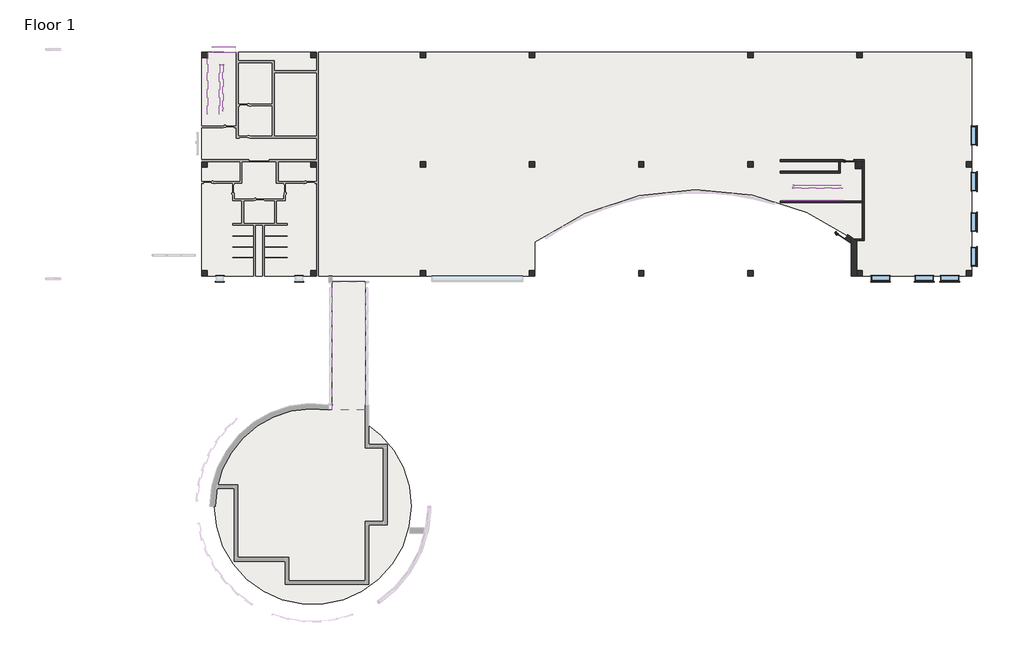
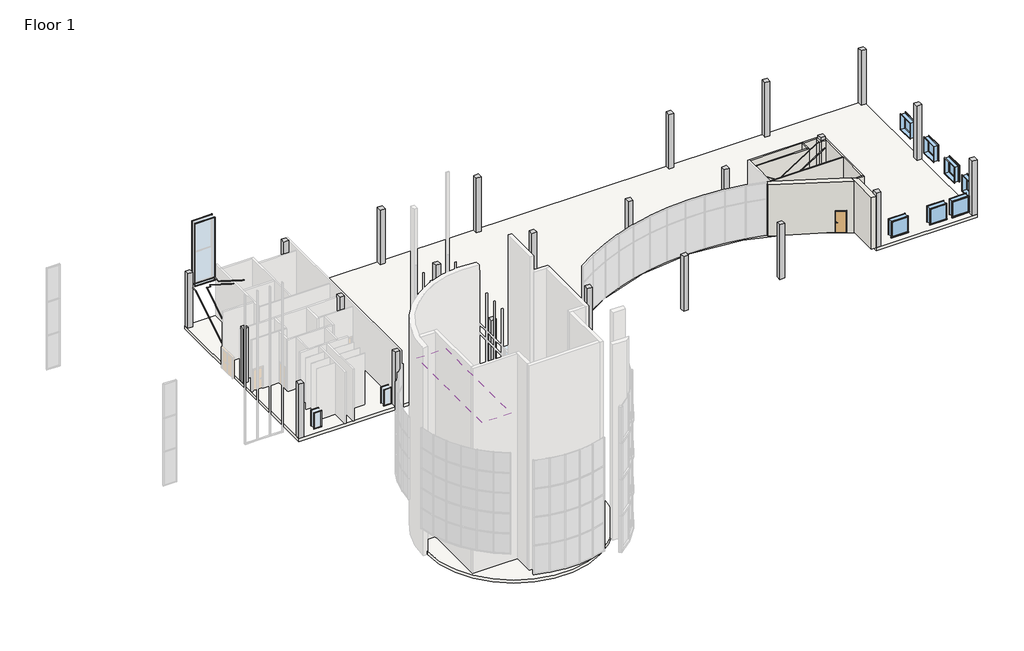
# One storey, part 11 of 11: 23 columns, 20 proxies, 10 walls, 7 windows, 4 railings, 2 doors, 2 slabs, 1 covering.
"""IFC4 building model written with IfcOpenShell, lengths in millimetres."""

from ifc_helpers import new_model, si_unit, point, frame, frame_2d, origin, origin_with_axes, place, context, project, spatial, polyline, circle_curve, trimmed, segment, composite_curve, outline, extrude, faceted_brep, transform, mapped, element, save
from ifc_brep_helpers import plane_surface, cylinder_surface, revolved_surface, advanced_brep
from components import trim_window_exterior_flat_with_sill_05ca63db, trim_window_exterior_flat_with_sill_953729a5, trim_window_exterior_flat_with_sill_4912eb0d, trim_window_interior_flat_picture_frame_a1a3bc7c, trim_window_interior_flat_picture_frame_4e25f6c2, trim_window_interior_flat_picture_frame_978fd00d, column_b6e10527, door_36f17018, door_fea31935, stair_railing_1_a10cea20, stair_railing_1_f20ecf36, stair_railing_1_b1bba10e, stair_railing_1_19f522ab, window_45f0c9e0

model = new_model("IFC4")

# Units and contexts
model_context = context("Model", 3, world=origin())
ifc_project = project(units=[si_unit("LENGTHUNIT", "METRE", prefix="MILLI")], contexts=[model_context])

# Site, building, storey
site = spatial("IfcSite", under=ifc_project)
building = spatial("IfcBuilding", under=site)
storey = spatial("IfcBuildingStorey", under=building, Name="Floor 1", Elevation=0.0)

# Proxies
placement = place(None, origin())
trim_window_exterior_flat_with_sill_shape = trim_window_exterior_flat_with_sill_05ca63db(model_context)
element("IfcBuildingElementProxy", 1, Name="Trim-Window-Exterior-Flat : with Sill", ObjectType="Trim-Window-Exterior-Flat : with Sill", at=placement, inside=storey, context=model_context, shape_type="MappedRepresentation", body=[
    mapped(trim_window_exterior_flat_with_sill_shape, transform((61956.9817024, 40245.511889, 2438.4), x_axis=(0.0, 1.0, 0.0), y_axis=(0.0, 0.0, 1.0), z_axis=(1.0, 0.0, 0.0))),
])
element("IfcBuildingElementProxy", 2, Name="Trim-Window-Exterior-Flat : with Sill", ObjectType="Trim-Window-Exterior-Flat : with Sill", at=placement, inside=storey, context=model_context, shape_type="MappedRepresentation", body=[
    mapped(trim_window_exterior_flat_with_sill_shape, transform((61956.9817024, 43141.111889, 2438.4), x_axis=(0.0, 1.0, 0.0), y_axis=(0.0, 0.0, 1.0), z_axis=(1.0, 0.0, 0.0))),
])
element("IfcBuildingElementProxy", 3, Name="Trim-Window-Exterior-Flat : with Sill", ObjectType="Trim-Window-Exterior-Flat : with Sill", at=placement, inside=storey, context=model_context, shape_type="MappedRepresentation", body=[
    mapped(trim_window_exterior_flat_with_sill_shape, transform((61956.9817024, 46544.711889, 2438.4), x_axis=(0.0, 1.0, 0.0), y_axis=(0.0, 0.0, 1.0), z_axis=(1.0, 0.0, 0.0))),
])
element("IfcBuildingElementProxy", 4, Name="Trim-Window-Exterior-Flat : with Sill", ObjectType="Trim-Window-Exterior-Flat : with Sill", at=placement, inside=storey, context=model_context, shape_type="MappedRepresentation", body=[
    mapped(trim_window_exterior_flat_with_sill_shape, transform((61956.9817024, 50405.511889, 2438.4), x_axis=(0.0, 1.0, 0.0), y_axis=(0.0, 0.0, 1.0), z_axis=(1.0, 0.0, 0.0))),
])
element("IfcBuildingElementProxy", 5, Name="Trim-Window-Exterior-Flat : with Sill", ObjectType="Trim-Window-Exterior-Flat : with Sill", at=placement, inside=storey, context=model_context, shape_type="MappedRepresentation", body=[
    mapped(trim_window_exterior_flat_with_sill_shape, transform((59672.5692024, 38164.299389, 2438.4), x_axis=(1.0, 0.0, 0.0), y_axis=(0.0, 0.0, 1.0), z_axis=(0.0, -1.0, 0.0))),
])
element("IfcBuildingElementProxy", 6, Name="Trim-Window-Exterior-Flat : with Sill", ObjectType="Trim-Window-Exterior-Flat : with Sill", at=placement, inside=storey, context=model_context, shape_type="MappedRepresentation", body=[
    mapped(trim_window_exterior_flat_with_sill_shape, transform((57538.9692024, 38164.299389, 2438.4), x_axis=(1.0, 0.0, 0.0), y_axis=(0.0, 0.0, 1.0), z_axis=(0.0, -1.0, 0.0))),
])
element("IfcBuildingElementProxy", 7, Name="Trim-Window-Exterior-Flat : with Sill", ObjectType="Trim-Window-Exterior-Flat : with Sill", at=placement, inside=storey, context=model_context, shape_type="MappedRepresentation", body=[
    mapped(trim_window_exterior_flat_with_sill_shape, transform((53881.3692024, 38164.299389, 2438.4), x_axis=(1.0, 0.0, 0.0), y_axis=(0.0, 0.0, 1.0), z_axis=(0.0, -1.0, 0.0))),
])
trim_window_exterior_flat_with_sill_2_shape = trim_window_exterior_flat_with_sill_953729a5(model_context)
element("IfcBuildingElementProxy", 8, Name="Trim-Window-Exterior-Flat : with Sill", ObjectType="Trim-Window-Exterior-Flat : with Sill", at=placement, inside=storey, context=model_context, shape_type="MappedRepresentation", body=[
    mapped(trim_window_exterior_flat_with_sill_2_shape, transform((-1084.2307976, 57820.724389, 9906.0), x_axis=(-1.0, 0.0, 0.0), y_axis=(0.0, 0.0, 1.0), z_axis=(0.0, 1.0, 0.0))),
])
trim_window_exterior_flat_with_sill_3_shape = trim_window_exterior_flat_with_sill_4912eb0d(model_context)
element("IfcBuildingElementProxy", 9, Name="Trim-Window-Exterior-Flat : with Sill", ObjectType="Trim-Window-Exterior-Flat : with Sill", at=placement, inside=storey, context=model_context, shape_type="MappedRepresentation", body=[
    mapped(trim_window_exterior_flat_with_sill_3_shape, transform((-1446.1807976, 38164.299389, 2438.4), x_axis=(1.0, 0.0, 0.0), y_axis=(0.0, 0.0, 1.0), z_axis=(0.0, -1.0, 0.0))),
])
element("IfcBuildingElementProxy", 10, Name="Trim-Window-Exterior-Flat : with Sill", ObjectType="Trim-Window-Exterior-Flat : with Sill", at=placement, inside=storey, context=model_context, shape_type="MappedRepresentation", body=[
    mapped(trim_window_exterior_flat_with_sill_3_shape, transform((5189.5692024, 38164.299389, 2438.4), x_axis=(1.0, 0.0, 0.0), y_axis=(0.0, 0.0, 1.0), z_axis=(0.0, -1.0, 0.0))),
])
trim_window_interior_flat_picture_frame_shape = trim_window_interior_flat_picture_frame_a1a3bc7c(model_context)
element("IfcBuildingElementProxy", 11, Name="Trim-Window-Interior-Flat : Picture Frame", ObjectType="Trim-Window-Interior-Flat : Picture Frame", at=placement, inside=storey, context=model_context, shape_type="MappedRepresentation", body=[
    mapped(trim_window_interior_flat_picture_frame_shape, transform((61502.9567024, 40245.511889, 2438.4), x_axis=(0.0, -1.0, 0.0), y_axis=(0.0, 0.0, 1.0), z_axis=(-1.0, 0.0, 0.0))),
])
element("IfcBuildingElementProxy", 12, Name="Trim-Window-Interior-Flat : Picture Frame", ObjectType="Trim-Window-Interior-Flat : Picture Frame", at=placement, inside=storey, context=model_context, shape_type="MappedRepresentation", body=[
    mapped(trim_window_interior_flat_picture_frame_shape, transform((61502.9567024, 43141.111889, 2438.4), x_axis=(0.0, -1.0, 0.0), y_axis=(0.0, 0.0, 1.0), z_axis=(-1.0, 0.0, 0.0))),
])
element("IfcBuildingElementProxy", 13, Name="Trim-Window-Interior-Flat : Picture Frame", ObjectType="Trim-Window-Interior-Flat : Picture Frame", at=placement, inside=storey, context=model_context, shape_type="MappedRepresentation", body=[
    mapped(trim_window_interior_flat_picture_frame_shape, transform((61502.9567024, 46544.711889, 2438.4), x_axis=(0.0, -1.0, 0.0), y_axis=(0.0, 0.0, 1.0), z_axis=(-1.0, 0.0, 0.0))),
])
element("IfcBuildingElementProxy", 14, Name="Trim-Window-Interior-Flat : Picture Frame", ObjectType="Trim-Window-Interior-Flat : Picture Frame", at=placement, inside=storey, context=model_context, shape_type="MappedRepresentation", body=[
    mapped(trim_window_interior_flat_picture_frame_shape, transform((61502.9567024, 50405.511889, 2438.4), x_axis=(0.0, -1.0, 0.0), y_axis=(0.0, 0.0, 1.0), z_axis=(-1.0, 0.0, 0.0))),
])
element("IfcBuildingElementProxy", 15, Name="Trim-Window-Interior-Flat : Picture Frame", ObjectType="Trim-Window-Interior-Flat : Picture Frame", at=placement, inside=storey, context=model_context, shape_type="MappedRepresentation", body=[
    mapped(trim_window_interior_flat_picture_frame_shape, transform((59672.5692024, 38618.324389, 2438.4), x_axis=(-1.0, 0.0, 0.0), y_axis=(0.0, 0.0, 1.0), z_axis=(0.0, 1.0, 0.0))),
])
element("IfcBuildingElementProxy", 16, Name="Trim-Window-Interior-Flat : Picture Frame", ObjectType="Trim-Window-Interior-Flat : Picture Frame", at=placement, inside=storey, context=model_context, shape_type="MappedRepresentation", body=[
    mapped(trim_window_interior_flat_picture_frame_shape, transform((57538.9692024, 38618.324389, 2438.4), x_axis=(-1.0, 0.0, 0.0), y_axis=(0.0, 0.0, 1.0), z_axis=(0.0, 1.0, 0.0))),
])
element("IfcBuildingElementProxy", 17, Name="Trim-Window-Interior-Flat : Picture Frame", ObjectType="Trim-Window-Interior-Flat : Picture Frame", at=placement, inside=storey, context=model_context, shape_type="MappedRepresentation", body=[
    mapped(trim_window_interior_flat_picture_frame_shape, transform((53881.3692024, 38618.324389, 2438.4), x_axis=(-1.0, 0.0, 0.0), y_axis=(0.0, 0.0, 1.0), z_axis=(0.0, 1.0, 0.0))),
])
trim_window_interior_flat_picture_frame_2_shape = trim_window_interior_flat_picture_frame_4e25f6c2(model_context)
element("IfcBuildingElementProxy", 18, Name="Trim-Window-Interior-Flat : Picture Frame", ObjectType="Trim-Window-Interior-Flat : Picture Frame", at=placement, inside=storey, context=model_context, shape_type="MappedRepresentation", body=[
    mapped(trim_window_interior_flat_picture_frame_2_shape, transform((-1084.2307976, 57366.699389, 9906.0), x_axis=(1.0, 0.0, 0.0), y_axis=(0.0, 0.0, 1.0), z_axis=(0.0, -1.0, 0.0))),
])
trim_window_interior_flat_picture_frame_3_shape = trim_window_interior_flat_picture_frame_978fd00d(model_context)
element("IfcBuildingElementProxy", 19, Name="Trim-Window-Interior-Flat : Picture Frame", ObjectType="Trim-Window-Interior-Flat : Picture Frame", at=placement, inside=storey, context=model_context, shape_type="MappedRepresentation", body=[
    mapped(trim_window_interior_flat_picture_frame_3_shape, transform((-1446.1807976, 38618.324389, 2438.4), x_axis=(-1.0, 0.0, 0.0), y_axis=(0.0, 0.0, 1.0), z_axis=(0.0, 1.0, 0.0))),
])
element("IfcBuildingElementProxy", 20, Name="Trim-Window-Interior-Flat : Picture Frame", ObjectType="Trim-Window-Interior-Flat : Picture Frame", at=placement, inside=storey, context=model_context, shape_type="MappedRepresentation", body=[
    mapped(trim_window_interior_flat_picture_frame_3_shape, transform((5189.5692024, 38618.324389, 2438.4), x_axis=(-1.0, 0.0, 0.0), y_axis=(0.0, 0.0, 1.0), z_axis=(0.0, 1.0, 0.0))),
])

# Columns
element("IfcColumn", 21, ObjectType="Rectangular Column1 : 18\" x 18\"", at=placement, inside=storey, context=model_context, shape_type="SweptSolid", body=[
    extrude(outline(polyline([(6637.3692024, 39077.111889), (6637.3692024, 38619.911889), (6180.1692024, 38619.911889), (6180.1692024, 39077.111889), (6637.3692024, 39077.111889)])), origin_with_axes(), (0.0, 0.0, 1.0), 5486.4),
])
element("IfcColumn", 22, ObjectType="Rectangular Column1 : 18\" x 18\"", at=placement, inside=storey, context=model_context, shape_type="SweptSolid", body=[
    extrude(outline(polyline([(-2506.6307976, 48221.111889), (-2506.6307976, 47763.911889), (-2963.8307976, 47763.911889), (-2963.8307976, 48221.111889), (-2506.6307976, 48221.111889)])), origin_with_axes(), (0.0, 0.0, 1.0), 5486.4),
])
element("IfcColumn", 23, ObjectType="Rectangular Column1 : 18\" x 18\"", at=placement, inside=storey, context=model_context, shape_type="SweptSolid", body=[
    extrude(outline(polyline([(6637.3692024, 48221.111889), (6637.3692024, 47763.911889), (6180.1692024, 47763.911889), (6180.1692024, 48221.111889), (6637.3692024, 48221.111889)])), origin_with_axes(), (0.0, 0.0, 1.0), 5486.4),
])
element("IfcColumn", 24, ObjectType="Rectangular Column1 : 18\" x 18\"", at=placement, inside=storey, context=model_context, shape_type="SweptSolid", body=[
    extrude(outline(polyline([(52357.3692024, 48221.111889), (52357.3692024, 47763.911889), (51900.1692024, 47763.911889), (51900.1692024, 48221.111889), (52357.3692024, 48221.111889)])), origin_with_axes(), (0.0, 0.0, 1.0), 5486.4),
])
element("IfcColumn", 25, ObjectType="Rectangular Column1 : 18\" x 18\"", at=placement, inside=storey, context=model_context, shape_type="SweptSolid", body=[
    extrude(outline(polyline([(6637.3692024, 57365.111889), (6637.3692024, 56907.911889), (6180.1692024, 56907.911889), (6180.1692024, 57365.111889), (6637.3692024, 57365.111889)])), origin_with_axes(), (0.0, 0.0, 1.0), 5486.4),
])
column_shape = column_b6e10527(model_context)
element("IfcColumn", 26, ObjectType="Rectangular Column1 : 18\" x 18\"", at=placement, inside=storey, context=model_context, shape_type="MappedRepresentation", body=[
    mapped(column_shape, transform((-2735.2307976, 38848.511889, 0.0), x_axis=(1.0, 0.0, 0.0), y_axis=(0.0, 1.0, 0.0), z_axis=(0.0, 0.0, 1.0))),
])
element("IfcColumn", 27, ObjectType="Rectangular Column1 : 18\" x 18\"", at=placement, inside=storey, context=model_context, shape_type="MappedRepresentation", body=[
    mapped(column_shape, transform((15552.7692024, 38848.511889, 0.0), x_axis=(1.0, 0.0, 0.0), y_axis=(0.0, 1.0, 0.0), z_axis=(0.0, 0.0, 1.0))),
])
element("IfcColumn", 28, ObjectType="Rectangular Column1 : 18\" x 18\"", at=placement, inside=storey, context=model_context, shape_type="MappedRepresentation", body=[
    mapped(column_shape, transform((24696.7692024, 38848.511889, 0.0), x_axis=(1.0, 0.0, 0.0), y_axis=(0.0, 1.0, 0.0), z_axis=(0.0, 0.0, 1.0))),
])
element("IfcColumn", 29, ObjectType="Rectangular Column1 : 18\" x 18\"", at=placement, inside=storey, context=model_context, shape_type="MappedRepresentation", body=[
    mapped(column_shape, transform((33840.7692024, 38848.511889, 0.0), x_axis=(1.0, 0.0, 0.0), y_axis=(0.0, 1.0, 0.0), z_axis=(0.0, 0.0, 1.0))),
])
element("IfcColumn", 30, ObjectType="Rectangular Column1 : 18\" x 18\"", at=placement, inside=storey, context=model_context, shape_type="MappedRepresentation", body=[
    mapped(column_shape, transform((42984.7692024, 38848.511889, 0.0), x_axis=(1.0, 0.0, 0.0), y_axis=(0.0, 1.0, 0.0), z_axis=(0.0, 0.0, 1.0))),
])
element("IfcColumn", 31, ObjectType="Rectangular Column1 : 18\" x 18\"", at=placement, inside=storey, context=model_context, shape_type="MappedRepresentation", body=[
    mapped(column_shape, transform((52128.7692024, 38848.511889, 0.0), x_axis=(1.0, 0.0, 0.0), y_axis=(0.0, 1.0, 0.0), z_axis=(0.0, 0.0, 1.0))),
])
element("IfcColumn", 32, ObjectType="Rectangular Column1 : 18\" x 18\"", at=placement, inside=storey, context=model_context, shape_type="MappedRepresentation", body=[
    mapped(column_shape, transform((61272.7692024, 38848.511889, 0.0), x_axis=(1.0, 0.0, 0.0), y_axis=(0.0, 1.0, 0.0), z_axis=(0.0, 0.0, 1.0))),
])
element("IfcColumn", 33, ObjectType="Rectangular Column1 : 18\" x 18\"", at=placement, inside=storey, context=model_context, shape_type="MappedRepresentation", body=[
    mapped(column_shape, transform((15552.7692024, 47992.511889, 0.0), x_axis=(1.0, 0.0, 0.0), y_axis=(0.0, 1.0, 0.0), z_axis=(0.0, 0.0, 1.0))),
])
element("IfcColumn", 34, ObjectType="Rectangular Column1 : 18\" x 18\"", at=placement, inside=storey, context=model_context, shape_type="MappedRepresentation", body=[
    mapped(column_shape, transform((24696.7692024, 47992.511889, 0.0), x_axis=(1.0, 0.0, 0.0), y_axis=(0.0, 1.0, 0.0), z_axis=(0.0, 0.0, 1.0))),
])
element("IfcColumn", 35, ObjectType="Rectangular Column1 : 18\" x 18\"", at=placement, inside=storey, context=model_context, shape_type="MappedRepresentation", body=[
    mapped(column_shape, transform((33840.7692024, 47992.511889, 0.0), x_axis=(1.0, 0.0, 0.0), y_axis=(0.0, 1.0, 0.0), z_axis=(0.0, 0.0, 1.0))),
])
element("IfcColumn", 36, ObjectType="Rectangular Column1 : 18\" x 18\"", at=placement, inside=storey, context=model_context, shape_type="MappedRepresentation", body=[
    mapped(column_shape, transform((42984.7692024, 47992.511889, 0.0), x_axis=(1.0, 0.0, 0.0), y_axis=(0.0, 1.0, 0.0), z_axis=(0.0, 0.0, 1.0))),
])
element("IfcColumn", 37, ObjectType="Rectangular Column1 : 18\" x 18\"", at=placement, inside=storey, context=model_context, shape_type="MappedRepresentation", body=[
    mapped(column_shape, transform((61272.7692024, 47992.511889, 0.0), x_axis=(1.0, 0.0, 0.0), y_axis=(0.0, 1.0, 0.0), z_axis=(0.0, 0.0, 1.0))),
])
element("IfcColumn", 38, ObjectType="Rectangular Column1 : 18\" x 18\"", at=placement, inside=storey, context=model_context, shape_type="MappedRepresentation", body=[
    mapped(column_shape, transform((-2735.2307976, 57136.511889, 0.0), x_axis=(1.0, 0.0, 0.0), y_axis=(0.0, 1.0, 0.0), z_axis=(0.0, 0.0, 1.0))),
])
element("IfcColumn", 39, ObjectType="Rectangular Column1 : 18\" x 18\"", at=placement, inside=storey, context=model_context, shape_type="MappedRepresentation", body=[
    mapped(column_shape, transform((15552.7692024, 57136.511889, 0.0), x_axis=(1.0, 0.0, 0.0), y_axis=(0.0, 1.0, 0.0), z_axis=(0.0, 0.0, 1.0))),
])
element("IfcColumn", 40, ObjectType="Rectangular Column1 : 18\" x 18\"", at=placement, inside=storey, context=model_context, shape_type="MappedRepresentation", body=[
    mapped(column_shape, transform((24696.7692024, 57136.511889, 0.0), x_axis=(1.0, 0.0, 0.0), y_axis=(0.0, 1.0, 0.0), z_axis=(0.0, 0.0, 1.0))),
])
element("IfcColumn", 41, ObjectType="Rectangular Column1 : 18\" x 18\"", at=placement, inside=storey, context=model_context, shape_type="MappedRepresentation", body=[
    mapped(column_shape, transform((42984.7692024, 57136.511889, 0.0), x_axis=(1.0, 0.0, 0.0), y_axis=(0.0, 1.0, 0.0), z_axis=(0.0, 0.0, 1.0))),
])
element("IfcColumn", 42, ObjectType="Rectangular Column1 : 18\" x 18\"", at=placement, inside=storey, context=model_context, shape_type="MappedRepresentation", body=[
    mapped(column_shape, transform((52128.7692024, 57136.511889, 0.0), x_axis=(1.0, 0.0, 0.0), y_axis=(0.0, 1.0, 0.0), z_axis=(0.0, 0.0, 1.0))),
])
element("IfcColumn", 43, ObjectType="Rectangular Column1 : 18\" x 18\"", at=placement, inside=storey, context=model_context, shape_type="MappedRepresentation", body=[
    mapped(column_shape, transform((61272.7692024, 57136.511889, 0.0), x_axis=(1.0, 0.0, 0.0), y_axis=(0.0, 1.0, 0.0), z_axis=(0.0, 0.0, 1.0))),
])

# Covering
element("IfcCovering", 44, ObjectType="2' x 2' ACT System", at=placement, inside=storey, context=model_context, shape_type="SweptSolid", body=[
    extrude(outline(polyline([(7986.4026119, 38164.299389), (10723.2526119, 38164.299389), (10723.2526119, 27403.0208402), (7986.4026119, 27403.0208402), (7986.4026119, 38164.299389)])), frame((0.0, 0.0, 4572.0), z_axis=(0.0, 0.0, 1.0), x_axis=(1.0, 0.0, 0.0)), (0.0, 0.0, 1.0), 57.15),
])

# Doors
door_shape = door_36f17018(model_context)
element("IfcDoor", 45, ObjectType="Door-Passage-Single-Flush : 36\" x 84\"", at=placement, inside=storey, context=model_context, shape_type="MappedRepresentation", body=[
    mapped(door_shape, transform((51195.3192024, 48297.311889, 0.0), x_axis=(1.0, 0.0, 0.0), y_axis=(0.0, 1.0, 0.0), z_axis=(0.0, 0.0, 1.0))),
])
door_2_shape = door_fea31935(model_context)
element("IfcDoor", 46, ObjectType="Door-Passage-Single-Flush : 36\" x 84\"", at=placement, inside=storey, context=model_context, shape_type="MappedRepresentation", body=[
    mapped(door_2_shape, transform((50606.4782147, 42168.6048182, 0.0), x_axis=(0.8466581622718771, -0.5321371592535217, 0.0), y_axis=(0.5321371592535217, 0.8466581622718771, 0.0), z_axis=(0.0, 0.0, 1.0))),
])

# Railings
stair_railing_1_shape = stair_railing_1_a10cea20(model_context)
element("IfcRailing", 47, ObjectType="Stair Railing 1", at=placement, inside=storey, context=model_context, shape_type="MappedRepresentation", body=[
    mapped(stair_railing_1_shape, transform((0.0, 0.0, 0.0), x_axis=(1.0, 0.0, 0.0), y_axis=(0.0, 1.0, 0.0), z_axis=(0.0, 0.0, 1.0))),
])
stair_railing_1_2_shape = stair_railing_1_f20ecf36(model_context)
element("IfcRailing", 48, ObjectType="Stair Railing 1", at=placement, inside=storey, context=model_context, shape_type="MappedRepresentation", body=[
    mapped(stair_railing_1_2_shape, transform((0.0, 0.0, 0.0), x_axis=(1.0, 0.0, 0.0), y_axis=(0.0, 1.0, 0.0), z_axis=(0.0, 0.0, 1.0))),
])
stair_railing_1_3_shape = stair_railing_1_b1bba10e(model_context)
element("IfcRailing", 49, ObjectType="Stair Railing 1", at=placement, inside=storey, context=model_context, shape_type="MappedRepresentation", body=[
    mapped(stair_railing_1_3_shape, transform((0.0, 0.0, 0.0), x_axis=(1.0, 0.0, 0.0), y_axis=(0.0, 1.0, 0.0), z_axis=(0.0, 0.0, 1.0))),
])
stair_railing_1_4_shape = stair_railing_1_19f522ab(model_context)
element("IfcRailing", 50, ObjectType="Stair Railing 1", at=placement, inside=storey, context=model_context, shape_type="MappedRepresentation", body=[
    mapped(stair_railing_1_4_shape, transform((0.0, 0.0, 0.0), x_axis=(1.0, 0.0, 0.0), y_axis=(0.0, 1.0, 0.0), z_axis=(0.0, 0.0, 1.0))),
])

# Slabs
element("IfcSlab", 51, ObjectType="Generic - 12\"", at=placement, inside=storey, context=model_context, shape_type="SweptSolid", body=[
    extrude(outline(composite_curve([segment(trimmed(circle_curve(frame_2d((6332.5692024, 19341.311889)), 8229.6), [point((10723.2526119, 26301.787114))], [point((14562.1692024, 19341.311889))], False, "CARTESIAN"), True, "CONTINUOUS"), segment(trimmed(circle_curve(frame_2d((6332.5692024, 19341.311889)), 8229.6), [point((14562.1692024, 19341.311889))], [point((-1897.0307976, 19341.311889))], False, "CARTESIAN"), True, "CONTINUOUS"), segment(trimmed(circle_curve(frame_2d((6332.5692024, 19341.311889)), 8229.6), [point((-1897.0307976, 19341.311889))], [point((7986.4026119, 27403.0208402))], False, "CARTESIAN"), True, "CONTINUOUS"), segment(polyline([(7986.4026119, 27403.0208402), (7986.4026119, 38164.299389), (10723.2526119, 38164.299389), (10723.2526119, 26301.787114)]), True, "CONTINUOUS")], self_intersect=False)), frame((0.0, 0.0, -304.8), z_axis=(0.0, 0.0, 1.0), x_axis=(1.0, 0.0, 0.0)), (0.0, 0.0, 1.0), 304.8),
])
element("IfcSlab", 52, ObjectType="Generic - 12\"", at=placement, inside=storey, context=model_context, shape_type="SweptSolid", body=[
    extrude(outline(composite_curve([segment(polyline([(-2965.7977165, 57366.699389), (61502.9567024, 57366.699389), (61502.9567024, 38618.324389), (51898.5817024, 38618.324389), (51898.5817024, 41572.7203745)]), True, "CONTINUOUS"), segment(trimmed(circle_curve(frame_2d((38486.136956, 22884.5054507)), 23003.1095965), [point((51898.5817024, 41572.7203745))], [point((24926.9567024, 41466.5312272))], True, "CARTESIAN"), True, "CONTINUOUS"), segment(polyline([(24926.9567024, 41466.5312272), (24926.9567024, 38618.324389), (-2965.7977165, 38618.324389), (-2965.7977165, 57366.699389)]), True, "CONTINUOUS")], self_intersect=False)), frame((0.0, 0.0, -304.8), z_axis=(0.0, 0.0, 1.0), x_axis=(1.0, 0.0, 0.0)), (0.0, 0.0, 1.0), 304.8),
])

# Walls
element("IfcWall", 53, ObjectType="Interior - 5 1/2\" Partition (1-hr)", at=placement, inside=storey, context=model_context, shape_type="Brep", body=[
    faceted_brep([(52497.0692024, 48360.811889, 0.0), (51703.3192024, 48360.811889, 0.0), (51703.3192024, 48360.811889, 2235.2), (50687.3192024, 48360.811889, 2235.2), (50687.3192024, 48360.811889, 0.0), (45482.274456, 48360.811889, 0.0), (45482.274456, 48360.811889, 5181.6), (52497.0692024, 48360.811889, 5181.6), (51703.3192024, 48221.111889, 2235.2), (51703.3192024, 48221.111889, 0.0), (51760.4692024, 48221.111889, 0.0), (51900.1692024, 48221.111889, 0.0), (52357.3692024, 48221.111889, 0.0), (52497.0692024, 48221.111889, 0.0), (52497.0692024, 48221.111889, 5181.6), (52357.3692024, 48221.111889, 5181.6), (51900.1692024, 48221.111889, 5181.6), (51760.4692024, 48221.111889, 5181.6), (50522.2192024, 48221.111889, 5181.6), (50382.5192024, 48221.111889, 5181.6), (45482.274456, 48221.111889, 5181.6), (45482.274456, 48221.111889, 0.0), (50382.5192024, 48221.111889, 0.0), (50522.2192024, 48221.111889, 0.0), (50687.3192024, 48221.111889, 0.0), (50687.3192024, 48221.111889, 2235.2)], [[[0, 1, 2, 3, 4, 5, 6, 7]], [[8, 9, 10, 11, 12, 13, 14, 15, 16, 17, 18, 19, 20, 21, 22, 23, 24, 25]], [[13, 12, 11, 10, 9, 1, 0]], [[24, 23, 22, 21, 5, 4]], [[21, 20, 6, 5]], [[14, 13, 0, 7]], [[20, 19, 18, 17, 16, 15, 14, 7, 6]], [[2, 1, 9, 8]], [[3, 2, 8, 25]], [[4, 3, 25, 24]]]),
])
element("IfcWall", 54, ObjectType="Interior - 5 1/2\" Partition (1-hr)", at=placement, inside=storey, context=model_context, shape_type="Brep", body=[
    faceted_brep([(52357.3692024, 48221.111889, 0.0), (52357.3692024, 47763.911889, 0.0), (52357.3692024, 47624.211889, 0.0), (52357.3692024, 41737.761889, 0.0), (52357.3692024, 41737.761889, 5181.6), (52357.3692024, 44766.711889, 5181.6), (52357.3692024, 44906.411889, 5181.6), (52357.3692024, 47624.211889, 5181.6), (52357.3692024, 47763.911889, 5181.6), (52357.3692024, 48221.111889, 5181.6), (52497.0692024, 48221.111889, 0.0), (52497.0692024, 48221.111889, 5181.6), (52497.0692024, 41737.761889, 5181.6), (52497.0692024, 41737.761889, 0.0)], [[[0, 1, 2, 3, 4, 5, 6, 7, 8, 9]], [[10, 11, 12, 13]], [[3, 2, 1, 0, 10, 13]], [[0, 9, 11, 10]], [[4, 3, 13, 12]], [[9, 8, 7, 6, 5, 4, 12, 11]]]),
])
element("IfcWall", 55, ObjectType="Interior - 5 1/2\" Partition (1-hr)", at=placement, inside=storey, context=model_context, shape_type="AdvancedBrep", body=[
    advanced_brep(
    [(51863.2015273, 41598.061889, 0.0), (52497.0692024, 41598.061889, 0.0), (52497.0692024, 41598.061889, 5181.6), (51863.2015273, 41598.061889, 5181.6), (51665.5820424, 41737.761889, 0.0), (51665.5820424, 41737.761889, 5181.6), (52357.3692024, 41737.761889, 5181.6), (52497.0692024, 41737.761889, 5181.6), (52497.0692024, 41737.761889, 0.0), (52357.3692024, 41737.761889, 0.0)],
    [
        (0, 1),
        (1, 2),
        (2, 3),
        (3, 0),
        (4, 5),
        (5, 6),
        (6, 7),
        (7, 8),
        (8, 9),
        (9, 4),
        (0, 4, circle_curve(frame((38486.136956, 22884.5054507, 0.0), z_axis=(0.0, 0.0, 1.0), x_axis=(0.9578157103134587, -0.28738313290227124, 0.0)), 23003.1095965)),
        (8, 1),
        (7, 2),
        (3, 5, circle_curve(frame((38486.136956, 22884.5054507, 5181.6), z_axis=(0.0, 0.0, 1.0), x_axis=(0.9578157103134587, -0.28738313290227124, 0.0)), 23003.1095965)),
    ],
    [
        plane_surface(frame((49293.7475845, 41598.061889, 0.0), z_axis=(0.0, -1.0, 0.0), x_axis=(1.0, 0.0, 0.0))),
        plane_surface(frame((49293.7475845, 41737.761889, 0.0), z_axis=(0.0, 1.0, 0.0), x_axis=(-1.0, 0.0, 0.0))),
        plane_surface(frame((51367.6835063, 41598.061889, 0.0), z_axis=(0.0, 0.0, -1.0), x_axis=(0.0, 1.0, 0.0))),
        plane_surface(frame((52497.0692024, 48290.961889, 0.0), z_axis=(1.0, 0.0, 0.0), x_axis=(0.0, 1.0, 0.0))),
        revolved_surface(polyline([(60518.87671358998, 16273.799748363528, 5181.6), (60518.87671358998, 16273.799748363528, 0.0)]), (38486.136956, 22884.5054507, -259.08), (0.0, 0.0, 1.0)),
        plane_surface(frame((61502.9567024, 57366.699389, 5181.6), z_axis=(0.0, 0.0, 1.0), x_axis=(0.0, -1.0, 0.0))),
    ],
    [
        (0, [[1, 2, 3, 4]]),
        (1, [[5, 6, 7, 8, 9, 10]]),
        (2, [[-1, 11, -10, -9, 12]]),
        (3, [[-2, -12, -8, 13]]),
        (4, [[-4, 14, -5, -11]]),
        (5, [[-3, -13, -7, -6, -14]]),
    ],
),
])
element("IfcWall", 56, ObjectType="Interior - 5 1/2\" Partition (1-hr)", at=placement, inside=storey, context=model_context, shape_type="Brep", body=[
    faceted_brep([(51760.4692024, 48221.111889, 0.0), (51760.4692024, 47624.211889, 0.0), (51760.4692024, 47624.211889, 5181.6), (51760.4692024, 48221.111889, 5181.6), (51900.1692024, 48221.111889, 0.0), (51900.1692024, 48221.111889, 5181.6), (51900.1692024, 47763.911889, 5181.6), (51900.1692024, 47624.211889, 5181.6), (51900.1692024, 47624.211889, 0.0), (51900.1692024, 47763.911889, 0.0)], [[[0, 1, 2, 3]], [[4, 5, 6, 7, 8, 9]], [[1, 0, 4, 9, 8]], [[2, 1, 8, 7]], [[0, 3, 5, 4]], [[3, 2, 7, 6, 5]]]),
])
element("IfcWall", 57, ObjectType="Interior - 5 1/2\" Partition (1-hr)", at=placement, inside=storey, context=model_context, shape_type="SweptSolid", body=[
    extrude(outline(polyline([(52357.3692024, 47624.211889), (51900.1692024, 47624.211889), (51900.1692024, 47763.911889), (52357.3692024, 47763.911889), (52357.3692024, 47624.211889)])), origin_with_axes(), (0.0, 0.0, 1.0), 5181.6),
])
element("IfcWall", 58, ObjectType="Interior - 5 1/2\" Partition (1-hr)", at=placement, inside=storey, context=model_context, shape_type="Brep", body=[
    faceted_brep([(45482.274456, 47262.261889, 0.0), (50522.2192024, 47262.261889, 0.0), (50522.2192024, 47262.261889, 5181.6), (50253.8139908, 47262.261889, 5181.6), (45899.4192024, 47262.261889, 5181.6), (45482.274456, 47262.261889, 5181.6), (45482.274456, 47401.961889, 0.0), (45482.274456, 47401.961889, 5181.6), (50382.5192024, 47401.961889, 5181.6), (50522.2192024, 47401.961889, 5181.6), (50522.2192024, 47401.961889, 0.0), (50382.5192024, 47401.961889, 0.0)], [[[0, 1, 2, 3, 4, 5]], [[6, 7, 8, 9, 10, 11]], [[1, 0, 6, 11, 10]], [[2, 1, 10, 9]], [[0, 5, 7, 6]], [[5, 4, 3, 2, 9, 8, 7]]]),
])
element("IfcWall", 59, ObjectType="Interior - 5 1/2\" Partition (1-hr)", at=placement, inside=storey, context=model_context, shape_type="SweptSolid", body=[
    extrude(outline(polyline([(50382.5192024, 47401.961889), (50382.5192024, 48221.111889), (50522.2192024, 48221.111889), (50522.2192024, 47401.961889), (50382.5192024, 47401.961889)])), origin_with_axes(), (0.0, 0.0, 1.0), 5181.6),
])
element("IfcWall", 60, ObjectType="Interior - 5 1/2\" Partition (1-hr)", at=placement, inside=storey, context=model_context, shape_type="Brep", body=[
    faceted_brep([(45482.274456, 44766.711889, 762.0), (52357.3692024, 44766.711889, 762.0), (52357.3692024, 44766.711889, 5181.6), (45482.274456, 44766.711889, 5181.6), (45482.274456, 44906.411889, 762.0), (45482.274456, 44906.411889, 5181.6), (45899.4192024, 44906.411889, 5181.6), (50327.5398084, 44906.411889, 5181.6), (52357.3692024, 44906.411889, 5181.6), (52357.3692024, 44906.411889, 762.0), (45482.274456, 44797.9057162, 5181.6)], [[[0, 1, 2, 3]], [[4, 5, 6, 7, 8, 9]], [[1, 0, 4, 9]], [[2, 1, 9, 8]], [[0, 3, 10, 5, 4]], [[3, 2, 8, 7, 6, 5, 10]]]),
])
element("IfcWall", 61, ObjectType="Stone on CMU", at=placement, inside=storey, context=model_context, shape_type="AdvancedBrep", body=[
    advanced_brep(
    [(51898.5817024, 38618.324389, 0.0), (51898.5817024, 41572.7203745, 0.0), (51898.5817024, 41572.7203745, 5181.6), (51898.5817024, 38618.324389, 5181.6), (51444.5567024, 38618.324389, 0.0), (51444.5567024, 38618.324389, 5181.6), (51444.5567024, 41338.2469093, 5181.6), (51444.5567024, 41890.3574124, 5181.6), (51444.5567024, 41890.3574124, 0.0), (51444.5567024, 41338.2469093, 0.0), (51665.5822101, 41737.7617717, 0.0), (51863.2001903, 41598.0628294, 0.0), (51665.5820424, 41737.761889, 5181.6), (51863.2015273, 41598.061889, 5181.6)],
    [
        (0, 1),
        (1, 2),
        (2, 3),
        (3, 0),
        (4, 5),
        (5, 6),
        (6, 7),
        (7, 8),
        (8, 9),
        (9, 4),
        (0, 4),
        (8, 10, circle_curve(frame((38486.136956, 22884.5054507, 0.0), z_axis=(0.0, 0.0, -1.0), x_axis=(1.0, 0.0, 0.0)), 23003.1095965)),
        (10, 11, circle_curve(frame((38486.136956, 22884.5054507, 0.0), z_axis=(0.0, 0.0, -1.0), x_axis=(1.0, 0.0, 0.0)), 23003.1095965)),
        (11, 1, circle_curve(frame((38486.136956, 22884.5054507, 0.0), z_axis=(0.0, 0.0, -1.0), x_axis=(1.0, 0.0, 0.0)), 23003.1095841)),
        (7, 12, circle_curve(frame((38486.136956, 22884.5054507, 5181.6), z_axis=(0.0, 0.0, -1.0), x_axis=(1.0, 0.0, 0.0)), 23003.1095965)),
        (12, 13, circle_curve(frame((38486.136956, 22884.5054507, 5181.6), z_axis=(0.0, 0.0, -1.0), x_axis=(1.0, 0.0, 0.0)), 23003.1095965)),
        (13, 2, circle_curve(frame((38486.136956, 22884.5054507, 5181.6), z_axis=(0.0, 0.0, -1.0), x_axis=(1.0, 0.0, 0.0)), 23003.1095965)),
        (3, 5),
    ],
    [
        plane_surface(frame((51898.5817024, 38848.511889, 0.0), z_axis=(1.0, 0.0, 0.0), x_axis=(0.0, 1.0, 0.0))),
        plane_surface(frame((51444.5567024, 38848.511889, 0.0), z_axis=(-1.0, 0.0, 0.0), x_axis=(0.0, -1.0, 0.0))),
        plane_surface(frame((51898.5817024, 38391.311889, 0.0), z_axis=(0.0, 0.0, -1.0), x_axis=(-1.0, 0.0, 0.0))),
        cylinder_surface(frame((38486.136956, 22884.5054507, 0.0), z_axis=(0.0, 0.0, 1.0), x_axis=(1.0, 0.0, 0.0)), 23003.1095965),
        plane_surface(frame((61272.7692024, 38618.324389, -152.4), z_axis=(0.0, -1.0, 0.0), x_axis=(-1.0, 0.0, 0.0))),
        plane_surface(frame((61502.9567024, 57366.699389, 5181.6), z_axis=(0.0, 0.0, 1.0), x_axis=(0.0, -1.0, 0.0))),
    ],
    [
        (0, [[1, 2, 3, 4]]),
        (1, [[5, 6, 7, 8, 9, 10]]),
        (2, [[-1, 11, -10, -9, 12, 13, 14]]),
        (3, [[-2, -14, -13, -12, -8, 15, 16, 17]]),
        (4, [[-4, 18, -5, -11]]),
        (5, [[-3, -17, -16, -15, -7, -6, -18]]),
    ],
),
])
element("IfcWall", 62, ObjectType="Stone on CMU", at=placement, inside=storey, context=model_context, shape_type="AdvancedBrep", body=[
    advanced_brep(
    [(51444.5567024, 41338.2469093, 0.0), (50912.3997033, 41700.7008759, 0.0), (51154.065513, 42085.1991809, 0.0), (51444.5567024, 41890.3574124, 0.0), (50052.1950104, 42241.3522297, 0.0), (44966.3635315, 44482.3729305, 0.0), (45096.8426584, 44917.2452084, 0.0), (45342.5867664, 44842.013119, 0.0), (45482.280153, 44797.9038841, 0.0), (50293.8587081, 42625.8518622, 0.0), (50912.3997033, 41700.7008759, 2235.2), (51444.5567024, 41338.2469093, 5181.6), (44966.3635315, 44482.3729305, 5181.6), (50052.1950104, 42241.3522297, 2235.2), (51154.0654837, 42085.1991343, 2235.2), (50293.8587081, 42625.8518622, 2235.2), (45096.8426584, 44917.2452084, 5181.6), (45342.574456, 44842.0170566, 5181.6), (45482.274456, 44797.9057162, 5181.6), (51444.5567024, 41890.3574124, 5181.6)],
    [
        (0, 1, circle_curve(frame((38486.136956, 22884.5054507, 0.0), z_axis=(0.0, 0.0, 1.0), x_axis=(1.0, 0.0, 0.0)), 22549.0845965)),
        (1, 2),
        (2, 3, circle_curve(frame((38486.136956, 22884.5054507, 0.0), z_axis=(0.0, 0.0, -1.0), x_axis=(1.0, 0.0, 0.0)), 23003.1095965)),
        (3, 0),
        (4, 5, circle_curve(frame((38486.136956, 22884.5054507, 0.0), z_axis=(0.0, 0.0, 1.0), x_axis=(1.0, 0.0, 0.0)), 22549.0845965)),
        (5, 6),
        (6, 7, circle_curve(frame((38486.136956, 22884.5054507, 0.0), z_axis=(0.0, 0.0, -1.0), x_axis=(1.0, 0.0, 0.0)), 23003.1095965)),
        (7, 8, circle_curve(frame((38486.136956, 22884.5054507, 0.0), z_axis=(0.0, 0.0, -1.0), x_axis=(1.0, 0.0, 0.0)), 23003.1095073)),
        (8, 9, circle_curve(frame((38486.136956, 22884.5054507, 0.0), z_axis=(0.0, 0.0, -1.0), x_axis=(1.0, 0.0, 0.0)), 23003.109584)),
        (9, 4),
        (10, 1),
        (0, 11),
        (11, 12, circle_curve(frame((38486.136956, 22884.5054507, 5181.6), z_axis=(0.0, 0.0, 1.0), x_axis=(1.0, 0.0, 0.0)), 22549.0845965)),
        (12, 5),
        (4, 13),
        (13, 10, circle_curve(frame((38486.136956, 22884.5054507, 2235.2), z_axis=(0.0, 0.0, -1.0), x_axis=(1.0, 0.0, 0.0)), 22549.0845965)),
        (2, 14),
        (14, 15, circle_curve(frame((38486.136956, 22884.5054507, 2235.2), z_axis=(0.0, 0.0, 1.0), x_axis=(1.0, 0.0, 0.0)), 23003.1095965)),
        (15, 9),
        (6, 16),
        (16, 17, circle_curve(frame((38486.136956, 22884.5054507, 5181.6), z_axis=(0.0, 0.0, -1.0), x_axis=(1.0, 0.0, 0.0)), 23003.1095965)),
        (17, 18, circle_curve(frame((38486.136956, 22884.5054507, 5181.6), z_axis=(0.0, 0.0, -1.0), x_axis=(1.0, 0.0, 0.0)), 23003.1095965)),
        (18, 19, circle_curve(frame((38486.136956, 22884.5054507, 5181.6), z_axis=(0.0, 0.0, -1.0), x_axis=(1.0, 0.0, 0.0)), 23003.1095965)),
        (19, 3),
        (12, 16),
        (19, 11),
        (10, 14),
        (13, 15),
    ],
    [
        plane_surface(frame((61035.2215526, 22884.5054507, 0.0), z_axis=(0.0, 0.0, -1.0), x_axis=(0.0, 1.0, 0.0))),
        revolved_surface(polyline([(61035.22155250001, 22884.5054507, 0.0), (61035.22155250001, 22884.5054507, 5181.6)]), (38486.136956, 22884.5054507, 0.0), (0.0, 0.0, -1.0)),
        cylinder_surface(frame((38486.136956, 22884.5054507, 0.0), z_axis=(0.0, 0.0, 1.0), x_axis=(1.0, 0.0, 0.0)), 23003.1095965),
        plane_surface(frame((45096.8426584, 44917.2452084, 5181.6), z_axis=(-0.9578157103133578, 0.2873831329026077, 0.0), x_axis=(0.0, 0.0, -1.0))),
        plane_surface(frame((51444.5567024, 38848.511889, 0.0), z_axis=(1.0, 0.0, 0.0), x_axis=(0.0, -1.0, 0.0))),
        plane_surface(frame((61502.9567024, 57366.699389, 5181.6), z_axis=(0.0, 0.0, 1.0), x_axis=(0.0, -1.0, 0.0))),
        plane_surface(frame((51154.0654837, 42085.1991343, 0.0), z_axis=(-0.8466552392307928, 0.5321418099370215, 0.0), x_axis=(-0.5321418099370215, -0.8466552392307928, 0.0))),
        plane_surface(frame((51154.063401, 42085.2005084, 2235.2), z_axis=(0.0, 0.0, -1.0), x_axis=(-0.5321371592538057, -0.8466581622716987, 0.0))),
        plane_surface(frame((50293.8565667, 42625.853143, 2235.2), z_axis=(0.8466610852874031, -0.5321325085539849, 0.0), x_axis=(-0.5321325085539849, -0.8466610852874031, 0.0))),
    ],
    [
        (0, [[1, 2, 3, 4]]),
        (0, [[5, 6, 7, 8, 9, 10]]),
        (1, [[11, -1, 12, 13, 14, -5, 15, 16]]),
        (2, [[-3, 17, 18, 19, -9, -8, -7, 20, 21, 22, 23, 24]]),
        (3, [[25, -20, -6, -14]]),
        (4, [[26, -12, -4, -24]]),
        (5, [[-13, -26, -23, -22, -21, -25]]),
        (6, [[-17, -2, -11, 27]]),
        (7, [[-18, -27, -16, 28]]),
        (8, [[-19, -28, -15, -10]]),
    ],
),
])

# Windows
window_shape = window_45f0c9e0(model_context)
element("IfcWindow", 63, ObjectType="Window-Fixed : 60\" x 60\"", at=placement, inside=storey, context=model_context, shape_type="MappedRepresentation", body=[
    mapped(window_shape, transform((53881.3692024, 38391.311889, 0.0), x_axis=(-1.0, 0.0, 0.0), y_axis=(0.0, -1.0, 0.0), z_axis=(0.0, 0.0, 1.0))),
])
element("IfcWindow", 64, ObjectType="Window-Fixed : 60\" x 60\"", at=placement, inside=storey, context=model_context, shape_type="MappedRepresentation", body=[
    mapped(window_shape, transform((57538.9692024, 38391.311889, 0.0), x_axis=(-1.0, 0.0, 0.0), y_axis=(0.0, -1.0, 0.0), z_axis=(0.0, 0.0, 1.0))),
])
element("IfcWindow", 65, ObjectType="Window-Fixed : 60\" x 60\"", at=placement, inside=storey, context=model_context, shape_type="MappedRepresentation", body=[
    mapped(window_shape, transform((59672.5692024, 38391.311889, 0.0), x_axis=(-1.0, 0.0, 0.0), y_axis=(0.0, -1.0, 0.0), z_axis=(0.0, 0.0, 1.0))),
])
element("IfcWindow", 66, ObjectType="Window-Fixed : 60\" x 60\"", at=placement, inside=storey, context=model_context, shape_type="MappedRepresentation", body=[
    mapped(window_shape, transform((61729.9692024, 50405.511889, 0.0), x_axis=(0.0, -1.0, 0.0), y_axis=(1.0, 0.0, 0.0), z_axis=(0.0, 0.0, 1.0))),
])
element("IfcWindow", 67, ObjectType="Window-Fixed : 60\" x 60\"", at=placement, inside=storey, context=model_context, shape_type="MappedRepresentation", body=[
    mapped(window_shape, transform((61729.9692024, 46544.711889, 0.0), x_axis=(0.0, -1.0, 0.0), y_axis=(1.0, 0.0, 0.0), z_axis=(0.0, 0.0, 1.0))),
])
element("IfcWindow", 68, ObjectType="Window-Fixed : 60\" x 60\"", at=placement, inside=storey, context=model_context, shape_type="MappedRepresentation", body=[
    mapped(window_shape, transform((61729.9692024, 43141.111889, 0.0), x_axis=(0.0, -1.0, 0.0), y_axis=(1.0, 0.0, 0.0), z_axis=(0.0, 0.0, 1.0))),
])
element("IfcWindow", 69, ObjectType="Window-Fixed : 60\" x 60\"", at=placement, inside=storey, context=model_context, shape_type="MappedRepresentation", body=[
    mapped(window_shape, transform((61729.9692024, 40245.511889, 0.0), x_axis=(0.0, -1.0, 0.0), y_axis=(1.0, 0.0, 0.0), z_axis=(0.0, 0.0, 1.0))),
])

save(model, "model.ifc")
